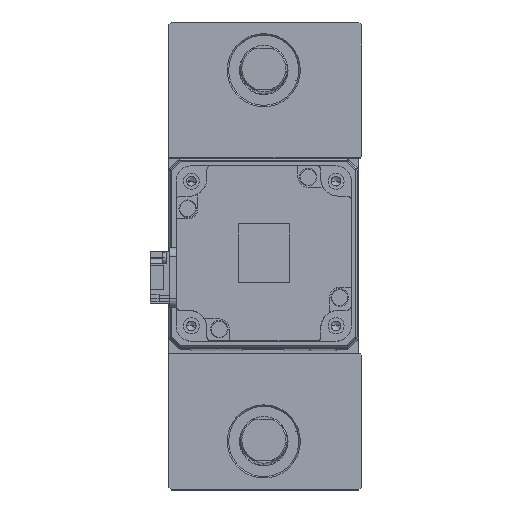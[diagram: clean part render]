
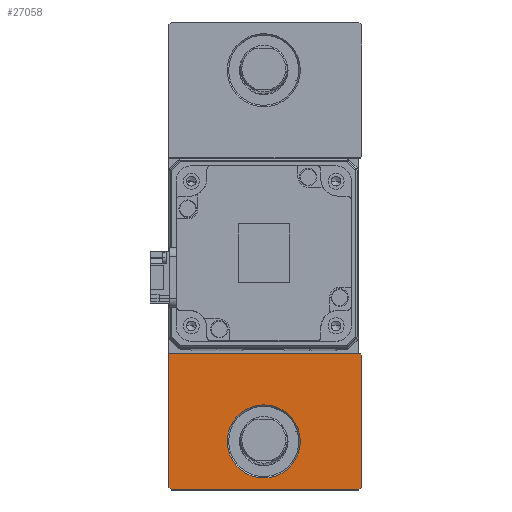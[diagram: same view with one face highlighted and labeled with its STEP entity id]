
A CAD part, top view. The second image highlights one B-rep face of the part: STEP entity #27058.
In plain terms, the highlighted planar face has unit normal (0, 0, 1).
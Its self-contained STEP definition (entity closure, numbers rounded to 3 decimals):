
#525 = CIRCLE ( 'NONE', #22440, 12.5 ) ;
#1540 = VECTOR ( 'NONE', #3702, 1000. ) ;
#1980 = PLANE ( 'NONE',  #37921 ) ;
#2247 = CARTESIAN_POINT ( 'NONE',  ( 0., 0., 25. ) ) ;
#3529 = EDGE_CURVE ( 'NONE', #34783, #23191, #13409, .T. ) ;
#3702 = DIRECTION ( 'NONE',  ( 0., 1., 0. ) ) ;
#3873 = VERTEX_POINT ( 'NONE', #8058 ) ;
#4027 = CARTESIAN_POINT ( 'NONE',  ( 33.5, -34., 25. ) ) ;
#5418 = VECTOR ( 'NONE', #6332, 1000. ) ;
#6086 = CARTESIAN_POINT ( 'NONE',  ( 33.5, -79., 25. ) ) ;
#6210 = FACE_OUTER_BOUND ( 'NONE', #8393, .T. ) ;
#6293 = CARTESIAN_POINT ( 'NONE',  ( -32.5, -33.5, 25. ) ) ;
#6332 = DIRECTION ( 'NONE',  ( 0.707, -0.707, 0. ) ) ;
#6698 = CARTESIAN_POINT ( 'NONE',  ( 33.5, -33.5, 25. ) ) ;
#7230 = CARTESIAN_POINT ( 'NONE',  ( 0., -63.5, 25. ) ) ;
#8058 = CARTESIAN_POINT ( 'NONE',  ( 33., -33.5, 25. ) ) ;
#8282 = EDGE_CURVE ( 'NONE', #36362, #23175, #26016, .T. ) ;
#8393 = EDGE_LOOP ( 'NONE', ( #32742, #25452, #36312, #12432, #17778, #25011, #12794 ) ) ;
#9036 = EDGE_CURVE ( 'NONE', #31214, #18298, #27813, .T. ) ;
#10175 = DIRECTION ( 'NONE',  ( 1., 0., 0. ) ) ;
#10483 = LINE ( 'NONE', #35168, #24294 ) ;
#10831 = CARTESIAN_POINT ( 'NONE',  ( -31.5, -80., 25. ) ) ;
#11019 = CARTESIAN_POINT ( 'NONE',  ( 0., -63.5, 25. ) ) ;
#11167 = DIRECTION ( 'NONE',  ( 0., 0., 1. ) ) ;
#11314 = VERTEX_POINT ( 'NONE', #38375 ) ;
#12432 = ORIENTED_EDGE ( 'NONE', *, *, #34043, .T. ) ;
#12794 = ORIENTED_EDGE ( 'NONE', *, *, #25336, .T. ) ;
#13409 = LINE ( 'NONE', #6293, #20348 ) ;
#13520 = VECTOR ( 'NONE', #38049, 1000. ) ;
#13978 = DIRECTION ( 'NONE',  ( 1., 0., 0. ) ) ;
#14548 = CARTESIAN_POINT ( 'NONE',  ( -32.5, -33.5, 25. ) ) ;
#16685 = LINE ( 'NONE', #14548, #31462 ) ;
#17202 = EDGE_CURVE ( 'NONE', #25187, #11314, #525, .T. ) ;
#17688 = ORIENTED_EDGE ( 'NONE', *, *, #25501, .T. ) ;
#17778 = ORIENTED_EDGE ( 'NONE', *, *, #20049, .T. ) ;
#18298 = VERTEX_POINT ( 'NONE', #23335 ) ;
#18859 = EDGE_CURVE ( 'NONE', #18298, #36362, #36165, .T. ) ;
#19735 = ORIENTED_EDGE ( 'NONE', *, *, #17202, .T. ) ;
#19967 = VECTOR ( 'NONE', #38285, 1000. ) ;
#20049 = EDGE_CURVE ( 'NONE', #3873, #34783, #16685, .T. ) ;
#20348 = VECTOR ( 'NONE', #35862, 1000. ) ;
#20411 = CARTESIAN_POINT ( 'NONE',  ( 12.5, -63.5, 25. ) ) ;
#20452 = CARTESIAN_POINT ( 'NONE',  ( -32.5, -80., 25. ) ) ;
#22440 = AXIS2_PLACEMENT_3D ( 'NONE', #11019, #31631, #13978 ) ;
#23175 = VERTEX_POINT ( 'NONE', #4027 ) ;
#23191 = VERTEX_POINT ( 'NONE', #24783 ) ;
#23280 = CARTESIAN_POINT ( 'NONE',  ( 56.25, -56.25, 25. ) ) ;
#23335 = CARTESIAN_POINT ( 'NONE',  ( 32.5, -80., 25. ) ) ;
#23836 = EDGE_LOOP ( 'NONE', ( #19735, #17688 ) ) ;
#24294 = VECTOR ( 'NONE', #38166, 1000. ) ;
#24783 = CARTESIAN_POINT ( 'NONE',  ( -32.5, -79., 25. ) ) ;
#25011 = ORIENTED_EDGE ( 'NONE', *, *, #3529, .T. ) ;
#25187 = VERTEX_POINT ( 'NONE', #20411 ) ;
#25336 = EDGE_CURVE ( 'NONE', #23191, #31214, #37790, .T. ) ;
#25452 = ORIENTED_EDGE ( 'NONE', *, *, #18859, .T. ) ;
#25501 = EDGE_CURVE ( 'NONE', #11314, #25187, #29413, .T. ) ;
#26016 = LINE ( 'NONE', #6698, #1540 ) ;
#27058 = ADVANCED_FACE ( 'NONE', ( #29739, #6210 ), #1980, .T. ) ;
#27096 = CARTESIAN_POINT ( 'NONE',  ( -32.5, -33.5, 25. ) ) ;
#27813 = LINE ( 'NONE', #20452, #19967 ) ;
#27838 = DIRECTION ( 'NONE',  ( 0., 0., -1. ) ) ;
#29413 = CIRCLE ( 'NONE', #38368, 12.5 ) ;
#29739 = FACE_BOUND ( 'NONE', #23836, .T. ) ;
#31214 = VERTEX_POINT ( 'NONE', #10831 ) ;
#31462 = VECTOR ( 'NONE', #35348, 1000. ) ;
#31631 = DIRECTION ( 'NONE',  ( 0., 0., -1. ) ) ;
#31795 = DIRECTION ( 'NONE',  ( 1., 0., 0. ) ) ;
#32742 = ORIENTED_EDGE ( 'NONE', *, *, #9036, .T. ) ;
#34043 = EDGE_CURVE ( 'NONE', #23175, #3873, #10483, .T. ) ;
#34783 = VERTEX_POINT ( 'NONE', #27096 ) ;
#35168 = CARTESIAN_POINT ( 'NONE',  ( -0.25, -0.25, 25. ) ) ;
#35348 = DIRECTION ( 'NONE',  ( -1., 0., 0. ) ) ;
#35762 = CARTESIAN_POINT ( 'NONE',  ( -55.75, -55.75, 25. ) ) ;
#35862 = DIRECTION ( 'NONE',  ( 0., -1., 0. ) ) ;
#36165 = LINE ( 'NONE', #23280, #13520 ) ;
#36312 = ORIENTED_EDGE ( 'NONE', *, *, #8282, .T. ) ;
#36362 = VERTEX_POINT ( 'NONE', #6086 ) ;
#37790 = LINE ( 'NONE', #35762, #5418 ) ;
#37921 = AXIS2_PLACEMENT_3D ( 'NONE', #2247, #11167, #31795 ) ;
#38049 = DIRECTION ( 'NONE',  ( 0.707, 0.707, 0. ) ) ;
#38166 = DIRECTION ( 'NONE',  ( -0.707, 0.707, 0. ) ) ;
#38285 = DIRECTION ( 'NONE',  ( 1., 0., 0. ) ) ;
#38368 = AXIS2_PLACEMENT_3D ( 'NONE', #7230, #27838, #10175 ) ;
#38375 = CARTESIAN_POINT ( 'NONE',  ( -12.5, -63.5, 25. ) ) ;
